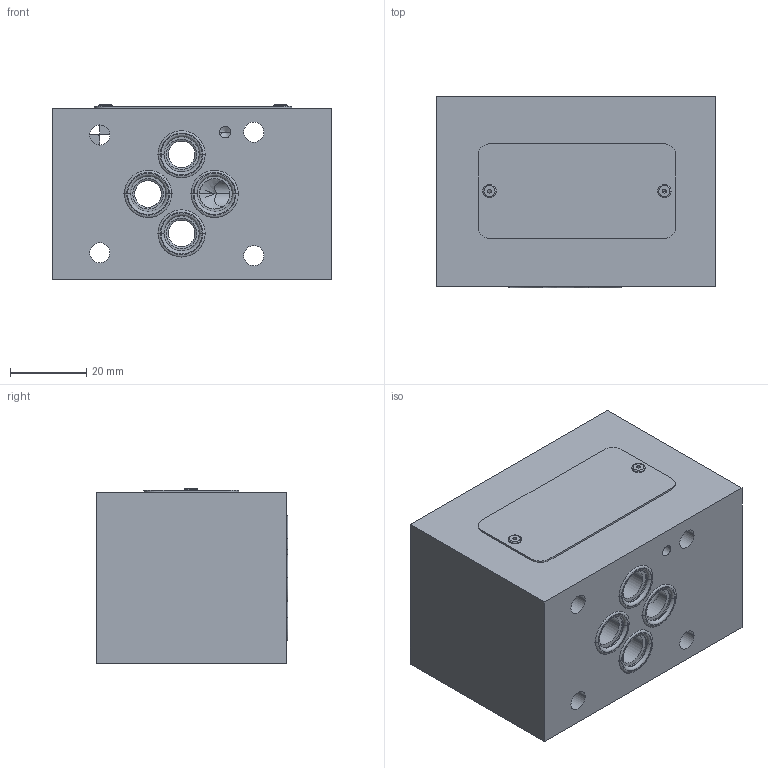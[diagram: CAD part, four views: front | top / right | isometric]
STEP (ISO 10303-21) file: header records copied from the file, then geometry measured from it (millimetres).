
FILE_DESCRIPTION((''),'2;1');
FILE_NAME('1000065460_ASM','2023-10-12T',('l.soukupova'),(''),'PRO/ENGINEER BY PARAMETRIC TECHNOLOGY CORPORATION, 2015440','PRO/ENGINEER BY PARAMETRIC TECHNOLOGY CORPORATION, 2015440','');
FILE_SCHEMA(('AUTOMOTIVE_DESIGN { 1 0 10303 214 1 1 1 1 }'));
Length unit declared in the file: millimetre
Products named in the file (5): 32701900; RD_LABEL_25X52_159703; AF_1932_16485; ORAR00012_201524; 1000065460_ASM
Assembly tree (8 placements, depth 2):
  1000065460_ASM
    32701900
    RD_LABEL_25X52_159703
    AF_1932_16485  x2
    ORAR00012_201524  x4
Bounding box: 73.5 x 50.38 x 46 mm (x, y, z)
Volume: 146190.6 mm3; surface area: 31923 mm2
Topology: 8 solids, 11 shells, 187 faces, 567 edges, 475 vertices
Faces by surface type: cylinder 90, torus 36, plane 34, cone 27
Entity records: 8138 total; most frequent: CARTESIAN_POINT 1463, DIRECTION 964, ORIENTED_EDGE 620, PRESENTATION_STYLE_ASSIGNMENT 565, STYLED_ITEM 499, CURVE_STYLE 493, AXIS2_PLACEMENT_3D 367, EDGE_CURVE 316
